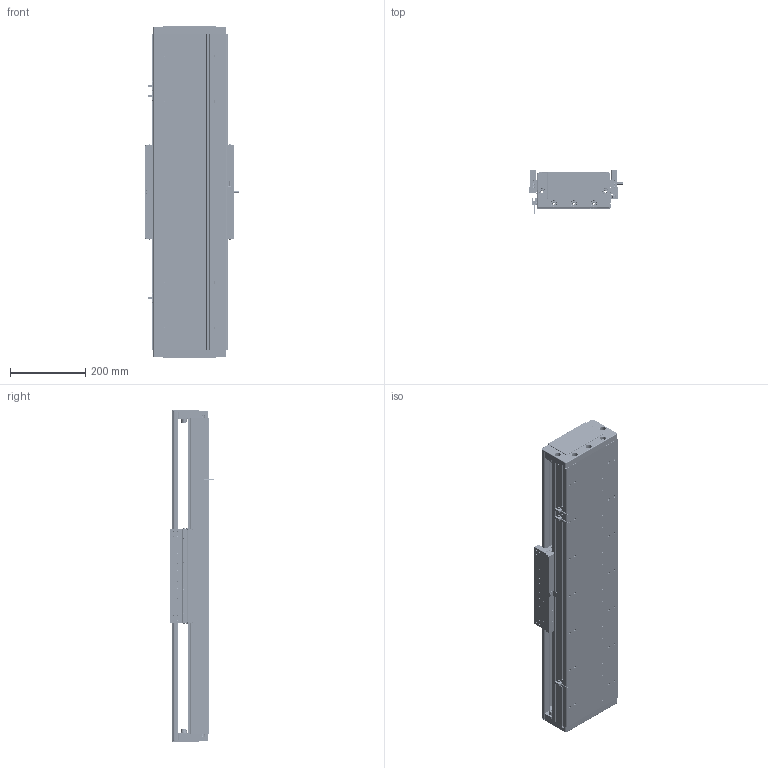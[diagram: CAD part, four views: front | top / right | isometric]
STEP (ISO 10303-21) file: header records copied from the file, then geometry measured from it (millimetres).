
FILE_DESCRIPTION (( 'STEP AP203' ), '1' );
FILE_NAME ('DA-C195-C3-T540-C010-0.2 眻盄萇儂.STEP', '2025-08-15T01:43:11', ( '' ), ( '' ), 'SwSTEP 2.0', 'SolidWorks 2019', '' );
FILE_SCHEMA (( 'CONFIG_CONTROL_DESIGN' ));
Length unit declared in the file: millimetre
Products named in the file (12): PM-T45ㄗ侂狟ㄘ; DA-C195-C3-T540-C010-0.2 眻盄萇儂; IU-CU195-L-00 菁釱(L840); 66156-0001-003-00 裔啣; DA95-HXJ-00 遣喳砎蝶; CU195-C3賑輸-俋楷; LMT黍杅芛; DA195-DG-H-00  端盖（压铸镂空版）; MS200 棠掑喜S315-T240; 葩璃 DA95-GT-T-00; IU-CU195-L 菁釱絳寢; DA165-GYP-00 光电感应片(默认)
Assembly tree (20 placements, depth 3):
  DA-C195-C3-T540-C010-0.2 眻盄萇儂
    IU-CU195-L 菁釱絳寢
      IU-CU195-L-00 菁釱(L840)
      葩璃 DA95-GT-T-00  x4
    LMT黍杅芛
    MS200 棠掑喜S315-T240
    PM-T45ㄗ侂狟ㄘ  x3
    DA165-GYP-00 光电感应片(默认)
    DA195-DG-H-00  端盖（压铸镂空版）  x2
    DA95-HXJ-00 遣喳砎蝶  x4
    66156-0001-003-00 裔啣
    CU195-C3賑輸-俋楷
Bounding box: 248 x 115.6 x 880 mm (x, y, z)
Volume: 6939511.1 mm3; surface area: 1940746.9 mm2
Topology: 78 solids, 118 shells, 5055 faces, 12808 edges, 7763 vertices
Faces by surface type: cylinder 2128, plane 1593, bspline 710, cone 544, torus 44, sphere 36
Entity records: 136779 total; most frequent: CARTESIAN_POINT 41877, ORIENTED_EDGE 19702, DIRECTION 19134, EDGE_CURVE 9851, AXIS2_PLACEMENT_3D 7107, VERTEX_POINT 6193, VECTOR 4920, LINE 4920
